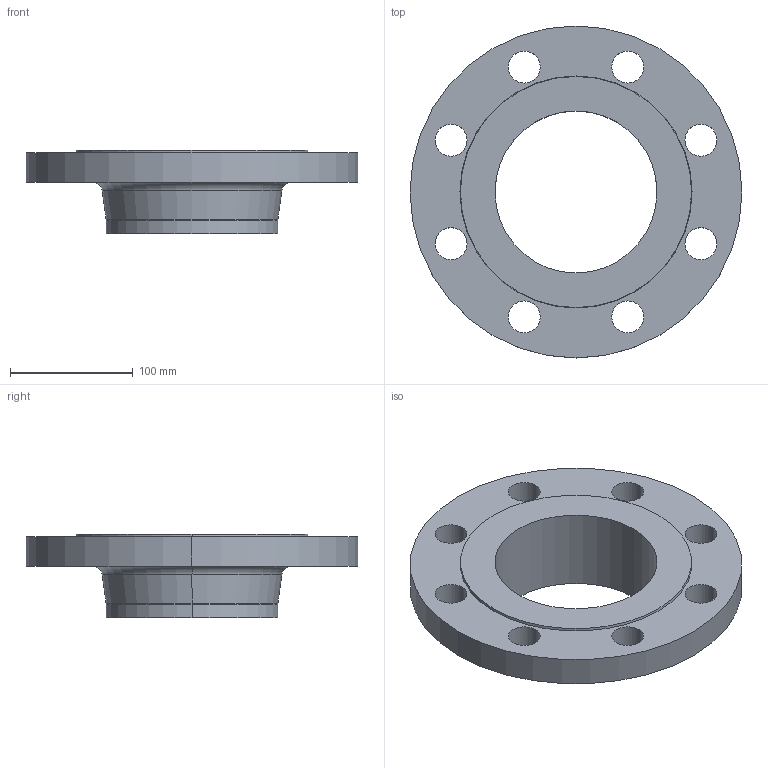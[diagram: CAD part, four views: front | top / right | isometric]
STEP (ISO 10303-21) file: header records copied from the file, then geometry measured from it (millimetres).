
FILE_DESCRIPTION (( 'STEP AP214' ), '1' );
FILE_NAME ('PN40 DN125 Type 11 - Type B Face.STEP', '2019-01-02T19:25:16', ( '' ), ( '' ), 'SwSTEP 2.0', 'SolidWorks 2019', '' );
FILE_SCHEMA (( 'AUTOMOTIVE_DESIGN' ));
Length unit declared in the file: millimetre
Products named in the file (1): PN40 DN125 Type 11 - Type B Face
Bounding box: 270 x 270 x 68 mm (x, y, z)
Volume: 1078542.6 mm3; surface area: 159884.1 mm2
Topology: 1 solids, 1 shells, 34 faces, 84 edges, 54 vertices
Faces by surface type: cylinder 22, cone 4, torus 4, plane 4
Entity records: 1108 total; most frequent: DIRECTION 212, CARTESIAN_POINT 173, ORIENTED_EDGE 168, AXIS2_PLACEMENT_3D 93, EDGE_CURVE 84, CIRCLE 58, VERTEX_POINT 54, EDGE_LOOP 54
